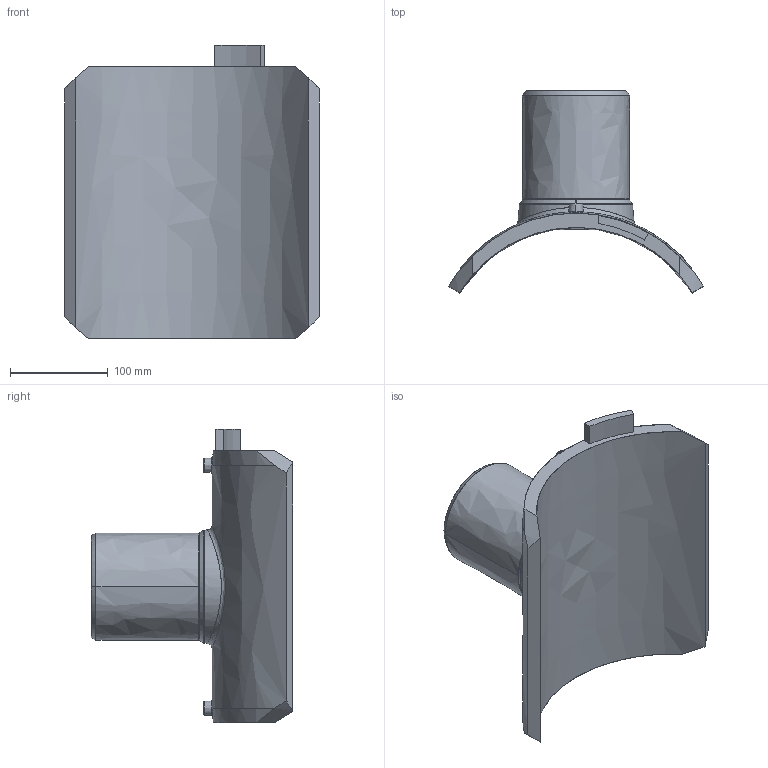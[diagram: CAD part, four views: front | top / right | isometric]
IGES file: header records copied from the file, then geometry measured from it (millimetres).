
Start section:  PTC IGES file: sa-uni_d280_110_01.igs
Global section: file name: sa-uni_d280_110_01.igs; native system: Pro/ENGINEER by Parametric Technology Corporation; preprocessor: 2011490; author: MikulicP; organization: Unknown; date: 20170202.102713; units: millimetre
Bounding box: 261 x 206.86 x 301 mm (x, y, z)
Surface area: 271771 mm2 (no closed solid volume)
Topology: 0 solids, 0 shells, 204 faces, 1008 edges, 1008 vertices
Faces by surface type: bspline 204
